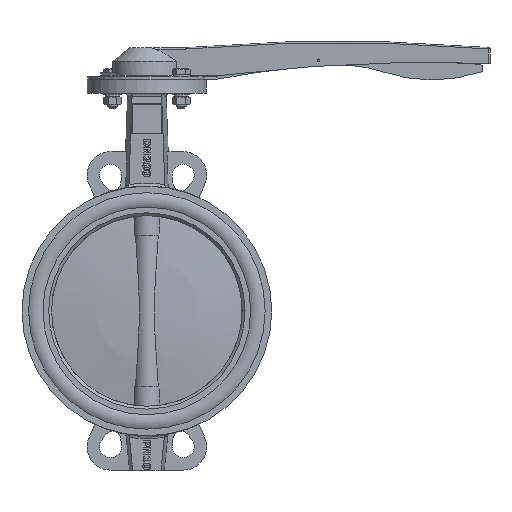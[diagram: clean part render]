
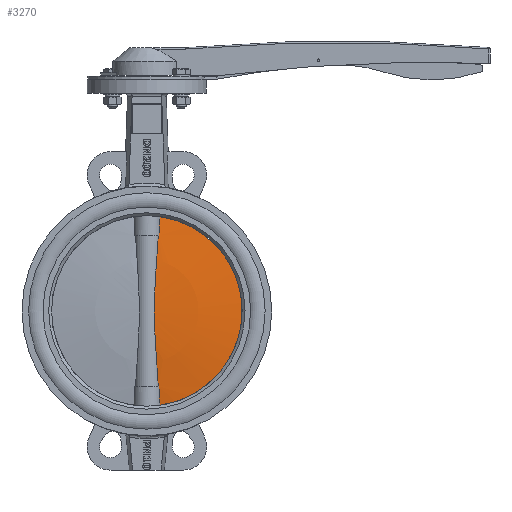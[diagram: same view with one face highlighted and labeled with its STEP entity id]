
A CAD part, left-side view. The second image highlights one B-rep face of the part: STEP entity #3270.
In plain terms, the highlighted spherical face has radius 707.775 mm.
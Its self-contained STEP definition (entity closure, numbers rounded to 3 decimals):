
#3270=ADVANCED_FACE('',(#6742),#6744,.T.);
#6742=FACE_BOUND('',#6743,.T.);
#6743=EDGE_LOOP('',(#11082,#11083,#11084,#11085,#11086,#11087));
#6744=SPHERICAL_SURFACE('',#6745,707.775);
#6745=AXIS2_PLACEMENT_3D('',#6746,#6747,#6748);
#6746=CARTESIAN_POINT('',(0.,-696.775,0.));
#6747=DIRECTION('',(0.,-1.,0.));
#6748=DIRECTION('',(0.,0.,1.));
#11082=ORIENTED_EDGE('',*,*,#12591,.F.);
#11083=ORIENTED_EDGE('',*,*,#12595,.T.);
#11084=ORIENTED_EDGE('',*,*,#12578,.F.);
#11085=ORIENTED_EDGE('',*,*,#12609,.F.);
#11086=ORIENTED_EDGE('',*,*,#12610,.T.);
#11087=ORIENTED_EDGE('',*,*,#12611,.F.);
#12578=EDGE_CURVE('',#14507,#14509,#14510,.T.);
#12591=EDGE_CURVE('',#14533,#14535,#14536,.F.);
#12595=EDGE_CURVE('',#14533,#14509,#14541,.T.);
#12609=EDGE_CURVE('',#14560,#14507,#14562,.T.);
#12610=EDGE_CURVE('',#14560,#14563,#14564,.T.);
#12611=EDGE_CURVE('',#14535,#14563,#14565,.T.);
#14507=VERTEX_POINT('',#20760);
#14509=VERTEX_POINT('',#20765);
#14510=B_SPLINE_CURVE_WITH_KNOTS('',3,
(#20766,#20767,#20768,#20769,#20770,#20771,#20772),
.UNSPECIFIED.,.F.,.F.,
(4,1,1,1,4),
(0.,0.237,0.478,0.733,1.),
.UNSPECIFIED.);
#14533=VERTEX_POINT('',#20963);
#14535=VERTEX_POINT('',#20983);
#14536=B_SPLINE_CURVE_WITH_KNOTS('',3,
(#20984,#20985,#20986,#20987,#20988,#20989,#20990),
.UNSPECIFIED.,.F.,.F.,
(4,1,1,1,4),
(0.,0.237,0.478,0.733,1.),
.UNSPECIFIED.);
#14541=CIRCLE('',#21007,100.);
#14560=VERTEX_POINT('',#21128);
#14562=CIRCLE('',#21133,703.337);
#14563=VERTEX_POINT('',#21137);
#14564=B_SPLINE_CURVE_WITH_KNOTS('',3,
(#21138,#21139,#21140,#21141,#21142,#21143,#21144,#21145,#21146,#21147,#21148,#21149,
#21150,#21151,#21152,#21153,#21154,#21155,#21156,#21157,#21158,#21159,#21160,#21161,
#21162),
.UNSPECIFIED.,.F.,.F.,
(4,1,1,1,1,1,1,1,1,1,1,1,1,1,1,1,1,1,1,1,1,1,4),
(0.,0.04,0.085,0.14,0.204,0.276,
0.339,0.391,0.431,0.471,0.5,
0.51,0.548,0.599,0.65,0.701,
0.741,0.782,0.825,0.867,0.911,
0.955,1.),
.UNSPECIFIED.);
#14565=CIRCLE('',#21163,703.337);
#20760=CARTESIAN_POINT('',(-12.601,6.449,79.14));
#20765=CARTESIAN_POINT('',(-13.607,3.9,99.07));
#20766=CARTESIAN_POINT('',(-12.601,6.449,79.14));
#20767=CARTESIAN_POINT('',(-12.692,6.269,80.718));
#20768=CARTESIAN_POINT('',(-12.873,5.897,83.898));
#20769=CARTESIAN_POINT('',(-13.134,5.294,88.772));
#20770=CARTESIAN_POINT('',(-13.383,4.631,93.838));
#20771=CARTESIAN_POINT('',(-13.535,4.151,97.301));
#20772=CARTESIAN_POINT('',(-13.607,3.9,99.07));
#20963=CARTESIAN_POINT('',(-13.607,3.9,-99.07));
#20983=CARTESIAN_POINT('',(-12.601,6.449,-79.14));
#20984=CARTESIAN_POINT('',(-12.601,6.449,-79.14));
#20985=CARTESIAN_POINT('',(-12.692,6.269,-80.718));
#20986=CARTESIAN_POINT('',(-12.873,5.897,-83.898));
#20987=CARTESIAN_POINT('',(-13.134,5.294,-88.772));
#20988=CARTESIAN_POINT('',(-13.383,4.631,-93.838));
#20989=CARTESIAN_POINT('',(-13.535,4.151,-97.301));
#20990=CARTESIAN_POINT('',(-13.607,3.9,-99.07));
#21007=AXIS2_PLACEMENT_3D('',#21008,#21009,#21010);
#21008=CARTESIAN_POINT('',(0.,3.9,0.));
#21009=DIRECTION('',(0.,1.,0.));
#21010=DIRECTION('',(-0.136,0.,-0.991));
#21128=CARTESIAN_POINT('',(-11.905,6.461,79.14));
#21133=AXIS2_PLACEMENT_3D('',#21134,#21135,#21136);
#21134=CARTESIAN_POINT('',(0.,-696.775,79.14));
#21135=DIRECTION('',(0.,0.,1.));
#21136=DIRECTION('',(-0.017,1.,0.));
#21137=CARTESIAN_POINT('',(-11.905,6.461,-79.14));
#21138=CARTESIAN_POINT('',(-11.905,6.461,79.14));
#21139=CARTESIAN_POINT('',(-11.776,6.7,77.036));
#21140=CARTESIAN_POINT('',(-11.49,7.189,72.546));
#21141=CARTESIAN_POINT('',(-10.999,7.923,65.161));
#21142=CARTESIAN_POINT('',(-10.413,8.683,56.535));
#21143=CARTESIAN_POINT('',(-9.741,9.43,46.515));
#21144=CARTESIAN_POINT('',(-9.095,10.049,36.062));
#21145=CARTESIAN_POINT('',(-8.583,10.484,26.173));
#21146=CARTESIAN_POINT('',(-8.26,10.737,17.958));
#21147=CARTESIAN_POINT('',(-8.072,10.878,10.97));
#21148=CARTESIAN_POINT('',(-7.983,10.943,5.209));
#21149=CARTESIAN_POINT('',(-7.964,10.957,1.046));
#21150=CARTESIAN_POINT('',(-7.97,10.952,-3.056));
#21151=CARTESIAN_POINT('',(-8.018,10.918,-8.279));
#21152=CARTESIAN_POINT('',(-8.185,10.794,-15.69));
#21153=CARTESIAN_POINT('',(-8.481,10.565,-23.779));
#21154=CARTESIAN_POINT('',(-8.844,10.264,-31.309));
#21155=CARTESIAN_POINT('',(-9.237,9.912,-38.308));
#21156=CARTESIAN_POINT('',(-9.638,9.524,-44.827));
#21157=CARTESIAN_POINT('',(-10.073,9.064,-51.484));
#21158=CARTESIAN_POINT('',(-10.531,8.529,-58.277));
#21159=CARTESIAN_POINT('',(-10.998,7.92,-65.159));
#21160=CARTESIAN_POINT('',(-11.463,7.233,-72.13));
#21161=CARTESIAN_POINT('',(-11.761,6.727,-76.796));
#21162=CARTESIAN_POINT('',(-11.905,6.461,-79.14));
#21163=AXIS2_PLACEMENT_3D('',#21164,#21165,#21166);
#21164=CARTESIAN_POINT('',(0.,-696.775,-79.14));
#21165=DIRECTION('',(0.,0.,-1.));
#21166=DIRECTION('',(-0.018,1.,0.));
